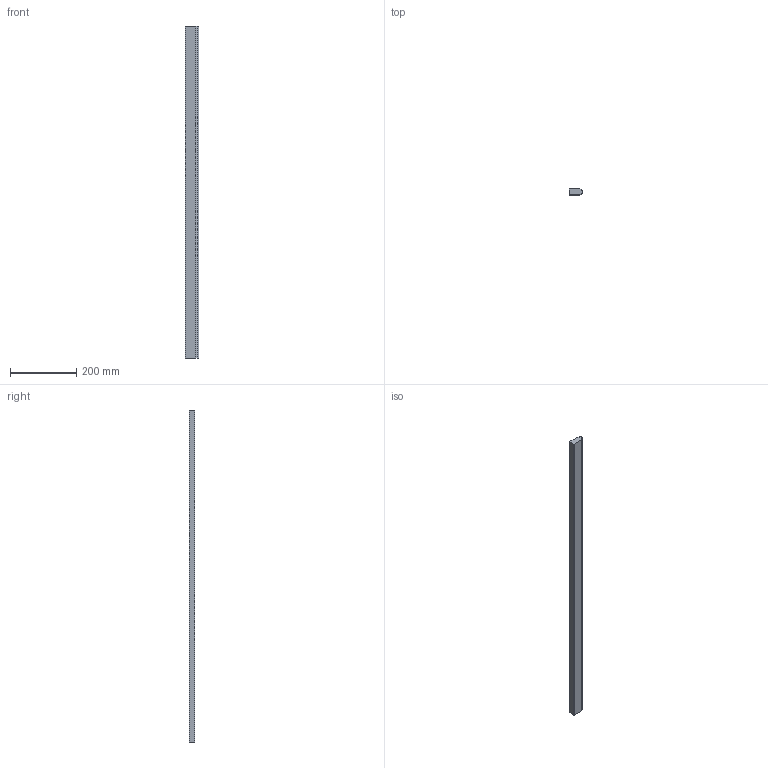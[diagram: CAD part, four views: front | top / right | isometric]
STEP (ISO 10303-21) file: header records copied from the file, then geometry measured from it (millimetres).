
FILE_DESCRIPTION (( 'STEP AP214' ), '1' );
FILE_NAME ('LFS52FHK.STEP', '2020-05-11T09:15:22', ( '' ), ( '' ), 'SwSTEP 2.0', 'SolidWorks 2019', '' );
FILE_SCHEMA (( 'AUTOMOTIVE_DESIGN' ));
Length unit declared in the file: millimetre
Products named in the file (1): LFS52FHK
Bounding box: 41.98 x 18 x 1000 mm (x, y, z)
Volume: 697560.8 mm3; surface area: 112196.8 mm2
Topology: 1 solids, 1 shells, 14 faces, 36 edges, 24 vertices
Faces by surface type: cylinder 7, plane 7
Entity records: 468 total; most frequent: DIRECTION 80, CARTESIAN_POINT 75, ORIENTED_EDGE 72, EDGE_CURVE 36, AXIS2_PLACEMENT_3D 29, VERTEX_POINT 24, VECTOR 22, LINE 22
